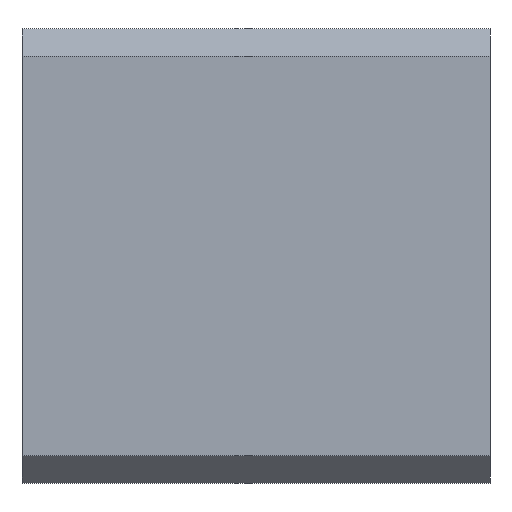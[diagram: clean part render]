
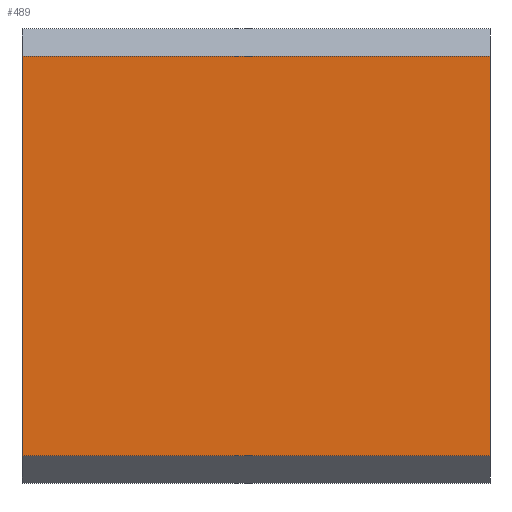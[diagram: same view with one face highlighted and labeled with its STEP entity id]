
A CAD part, front view. The second image highlights one B-rep face of the part: STEP entity #489.
In plain terms, the highlighted planar face has unit normal (0, -1, 0).
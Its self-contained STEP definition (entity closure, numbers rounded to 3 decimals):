
#39=FACE_OUTER_BOUND('',#64,.T.);
#64=EDGE_LOOP('',(#417,#418,#419,#420));
#70=LINE('',#657,#136);
#74=LINE('',#666,#140);
#84=LINE('',#686,#150);
#132=LINE('',#782,#198);
#136=VECTOR('',#537,10.);
#140=VECTOR('',#545,10.);
#150=VECTOR('',#561,10.);
#198=VECTOR('',#645,10.);
#199=VERTEX_POINT('',#650);
#202=VERTEX_POINT('',#655);
#205=VERTEX_POINT('',#665);
#212=VERTEX_POINT('',#685);
#246=EDGE_CURVE('',#202,#199,#70,.T.);
#250=EDGE_CURVE('',#199,#205,#74,.T.);
#260=EDGE_CURVE('',#205,#212,#84,.T.);
#308=EDGE_CURVE('',#212,#202,#132,.T.);
#417=ORIENTED_EDGE('',*,*,#246,.F.);
#418=ORIENTED_EDGE('',*,*,#308,.F.);
#419=ORIENTED_EDGE('',*,*,#260,.F.);
#420=ORIENTED_EDGE('',*,*,#250,.F.);
#464=PLANE('',#528);
#489=ADVANCED_FACE('',(#39),#464,.T.);
#528=AXIS2_PLACEMENT_3D('',#781,#643,#644);
#537=DIRECTION('',(-1.,0.,0.));
#545=DIRECTION('',(0.,0.,1.));
#561=DIRECTION('',(1.,0.,0.));
#643=DIRECTION('center_axis',(0.,-1.,0.));
#644=DIRECTION('ref_axis',(0.,0.,1.));
#645=DIRECTION('',(0.,0.,-1.));
#650=CARTESIAN_POINT('',(-14.,0.,-47.5));
#655=CARTESIAN_POINT('',(3.,0.,-47.5));
#657=CARTESIAN_POINT('',(0.,0.,-47.5));
#665=CARTESIAN_POINT('',(-14.,0.,-33.));
#666=CARTESIAN_POINT('',(-14.,0.,-32.));
#685=CARTESIAN_POINT('',(3.,0.,-33.));
#686=CARTESIAN_POINT('',(0.,0.,-33.));
#781=CARTESIAN_POINT('Origin',(0.,0.,-48.5));
#782=CARTESIAN_POINT('',(3.,0.,-44.375));
